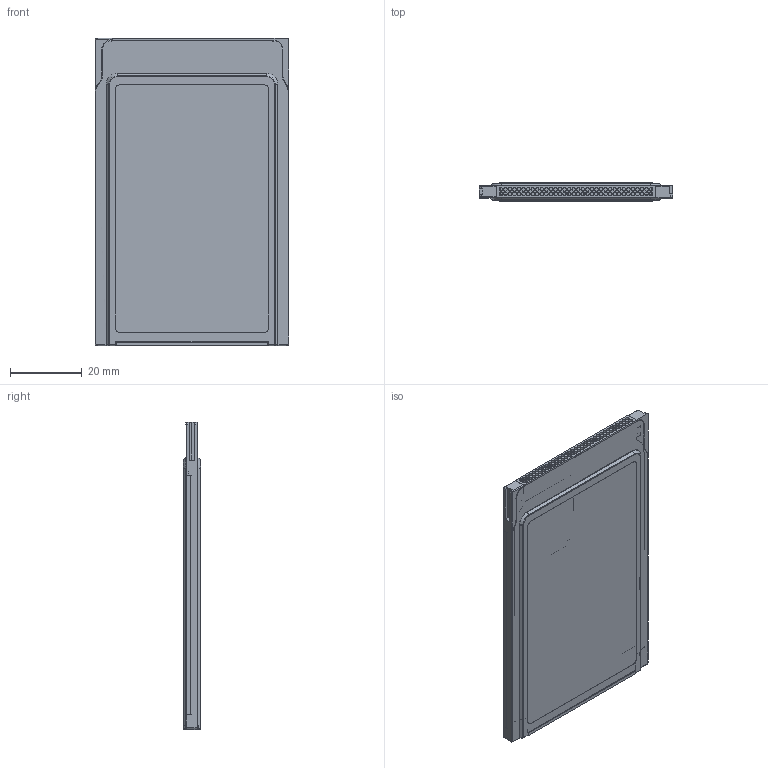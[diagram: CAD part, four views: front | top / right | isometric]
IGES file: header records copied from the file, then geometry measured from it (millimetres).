
Start section:  PTC IGES file: cu_pcmcia-4050.igs
Global section: file name: cu_pcmcia-4050.igs; native system: Pro/ENGINEER by Parametric Technology Corporation; preprocessor: 2006080; author: jjorden; organization: Unknown; date: 100108.134445; units: inch
Bounding box: 54 x 5.01 x 85.6 mm (x, y, z)
Surface area: 30153.2 mm2 (no closed solid volume)
Topology: 0 solids, 0 shells, 1592 faces, 8260 edges, 8260 vertices
Faces by surface type: bspline 1216, revolution 374, extrusion 2
